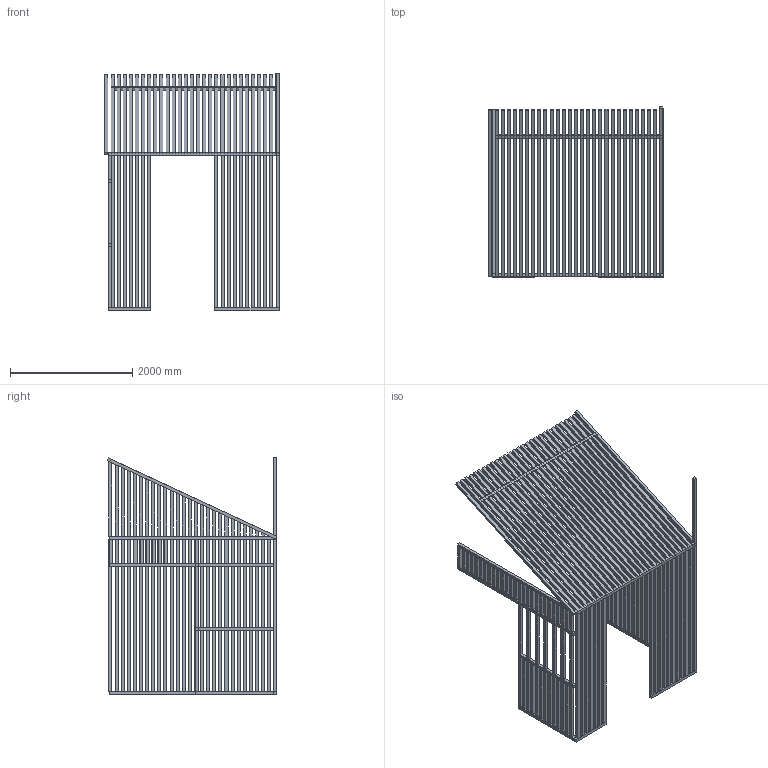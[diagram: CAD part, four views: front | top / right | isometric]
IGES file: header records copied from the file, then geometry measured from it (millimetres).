
Global section: file name: C:\Users\timo\Google Drive\SasPFC\relev; native system: Rhinoceros ( Jun 24 2014 ); preprocessor: Trout Lake IGES 012 Jun 24 2014; date: 151204.135353; units: centimetre
Bounding box: 2850.91 x 2779.74 x 3895.5 mm (x, y, z)
Surface area: 54439350.2 mm2 (no closed solid volume)
Topology: 0 solids, 0 shells, 892 faces, 3572 edges, 3572 vertices
Faces by surface type: bspline 892
